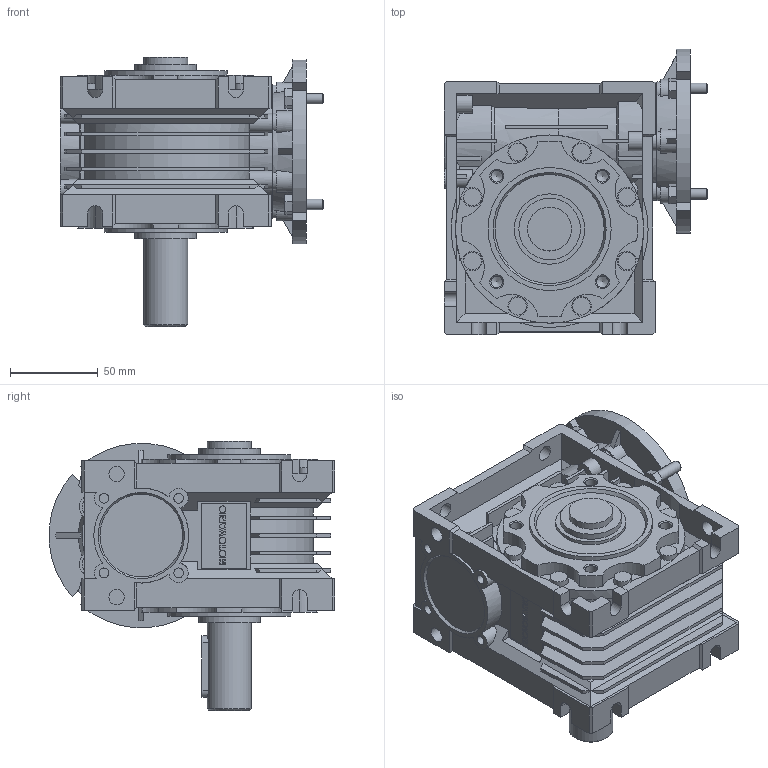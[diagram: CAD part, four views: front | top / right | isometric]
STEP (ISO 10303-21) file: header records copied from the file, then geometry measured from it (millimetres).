
FILE_DESCRIPTION(/* description */ ('STEP AP203'),/* implementation_level */ '2;1');
FILE_NAME(/* name */ 'NMRV0501332511112300NO---_---------------',/* time_stamp */ '2025-12-03T08:33:49+01:00',/* author */ ('License CC BY-ND 4.0'),/* organization */ ('CADENAS'),/* preprocessor_version */ 'ST-DEVELOPER v20',/* originating_system */ 'PARTsolutions',/* authorisation */ ' ');
FILE_SCHEMA (('CONFIG_CONTROL_DESIGN'));
Length unit declared in the file: millimetre
Products named in the file (6): NMRV0501332511112300NO---(---------------); Gear unit 50; 050-25 (92)alc-n; AL 050-25(1-2); VB 050-14 (14); 50-71 B14
Assembly tree (5 placements, depth 2):
  NMRV0501332511112300NO---(---------------)
    Gear unit 50
    050-25 (92)alc-n
    AL 050-25(1-2)
    VB 050-14 (14)
    50-71 B14
Bounding box: 150 x 162.33 x 153 mm (x, y, z)
Volume: 1139110.1 mm3; surface area: 248372.7 mm2
Topology: 5 solids, 10 shells, 975 faces, 2579 edges, 1679 vertices
Faces by surface type: plane 665, cylinder 227, cone 81, torus 2
Full cylindrical faces by diameter (mm): 3.775 x3, 5.55 x4, 6 x4, 6.647 x8, 8.376 x1, 8.8 x8, 10 x14, 10.5 x1, 16 x1, 25 x3, 28 x2, 34 x1, 35 x2, 40 x2, 47 x2, 55 x1, 70 x2, 107 x1
Entity records: 29937 total; most frequent: CARTESIAN_POINT 5815, DIRECTION 4957, ORIENTED_EDGE 4936, EDGE_CURVE 2468, AXIS2_PLACEMENT_3D 1714, VERTEX_POINT 1666, LINE 1529, VECTOR 1529
